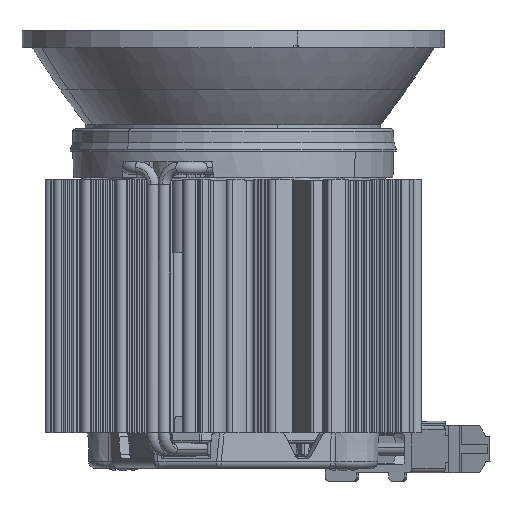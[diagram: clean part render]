
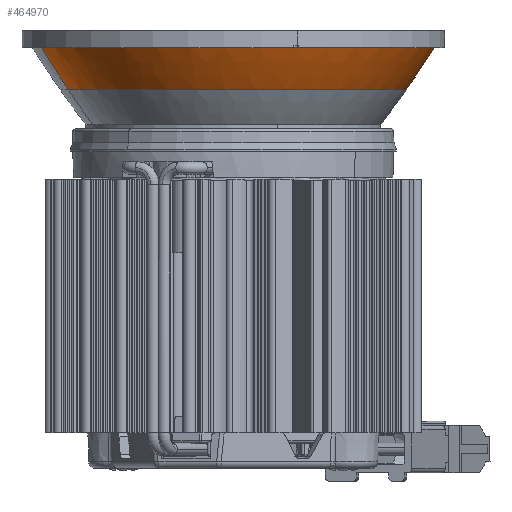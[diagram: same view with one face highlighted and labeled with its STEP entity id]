
A CAD part, front view. The second image highlights one B-rep face of the part: STEP entity #464970.
In plain terms, the highlighted toroidal (fillet/blend) face has major radius 102.407 mm and minor radius 150 mm.
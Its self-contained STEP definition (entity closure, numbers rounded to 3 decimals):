
#464310=CARTESIAN_POINT('',(17.371,10.5,
10.781));
#464320=VERTEX_POINT('',#464310);
#464450=CARTESIAN_POINT('',(-17.371,10.5,
-10.781));
#464460=VERTEX_POINT('',#464450);
#464490=CARTESIAN_POINT('',(0.,10.5,
0.));
#464500=DIRECTION('',(0.,-1.,0.));
#464510=DIRECTION('',(-0.527,0.,
0.85));
#464520=AXIS2_PLACEMENT_3D('',#464490,#464500,#464510);
#464530=CIRCLE('',#464520,20.445);
#464540=CARTESIAN_POINT('',(-10.781,10.5,
17.371));
#464550=VERTEX_POINT('',#464540);
#464560=EDGE_CURVE('',#464550,#464460,#464530,.T.);
#464580=EDGE_CURVE('',#464320,#464550,#464530,.T.);
#464630=CARTESIAN_POINT('',(0.,96.566,
0.));
#464640=DIRECTION('',(0.,1.,0.));
#464650=DIRECTION('',(0.85,0.,
0.527));
#464660=AXIS2_PLACEMENT_3D('',#464630,#464640,#464650);
#464670=DEGENERATE_TOROIDAL_SURFACE('',#464660,102.407,
150.,.F.);
#464680=ORIENTED_EDGE('',*,*,#464560,.F.);
#464690=CARTESIAN_POINT('',(87.012,96.566,
54.001));
#464700=DIRECTION('',(-0.527,0.,
0.85));
#464710=DIRECTION('',(0.85,0.,
0.527));
#464720=AXIS2_PLACEMENT_3D('',#464690,#464700,#464710);
#464730=CIRCLE('',#464720,150.);
#464740=CARTESIAN_POINT('',(-20.222,15.5,
-12.55));
#464750=VERTEX_POINT('',#464740);
#464760=EDGE_CURVE('',#464750,#464460,#464730,.T.);
#464770=ORIENTED_EDGE('',*,*,#464760,.T.);
#464780=CARTESIAN_POINT('',(0.,15.5,
0.));
#464790=DIRECTION('',(0.,-1.,0.));
#464800=DIRECTION('',(-0.527,0.,
0.85));
#464810=AXIS2_PLACEMENT_3D('',#464780,#464790,#464800);
#464820=CIRCLE('',#464810,23.8);
#464830=CARTESIAN_POINT('',(20.222,15.5,
12.55));
#464840=VERTEX_POINT('',#464830);
#464850=EDGE_CURVE('',#464840,#464750,#464820,.T.);
#464860=ORIENTED_EDGE('',*,*,#464850,.T.);
#464870=CARTESIAN_POINT('',(-87.012,96.566,
-54.001));
#464880=DIRECTION('',(0.527,0.,
-0.85));
#464890=DIRECTION('',(-0.85,0.,
-0.527));
#464900=AXIS2_PLACEMENT_3D('',#464870,#464880,#464890);
#464910=CIRCLE('',#464900,150.);
#464920=EDGE_CURVE('',#464840,#464320,#464910,.T.);
#464930=ORIENTED_EDGE('',*,*,#464920,.F.);
#464940=ORIENTED_EDGE('',*,*,#464580,.F.);
#464950=EDGE_LOOP('',(#464940,#464930,#464860,#464770,#464680));
#464960=FACE_OUTER_BOUND('',#464950,.T.);
#464970=ADVANCED_FACE('',(#464960),#464670,.F.);
